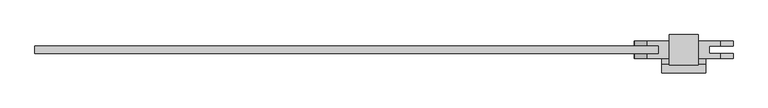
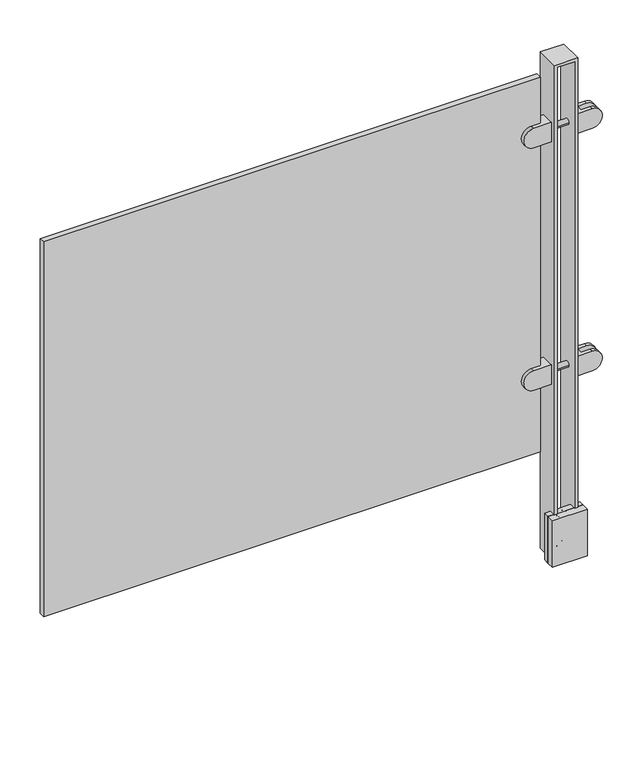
"""IFC4 building model written with IfcOpenShell, lengths in millimetres: proxy geometry, LIVERS_ICN - Glass Panel : LIVERS_ICN - Glass Panel."""

from ifc_helpers import new_model, si_unit, point, frame, origin, place, context, project, spatial, polyline, circle_curve, ellipse_curve, trimmed, outline, extrude, faceted_brep, source, transform, mapped, element, save
from ifc_brep_helpers import plane_surface, cylinder_surface, revolved_surface, advanced_brep


def building_element_proxy_7817a10f(model_context):
    return source(origin(), model_context, "Body", "SolidModel", [
        advanced_brep(
        [(1193.8, 55.5624457, 313.5369168), (1193.8, 25.3999457, 313.5369168), (1193.8, 25.3999457, 269.0869168), (1193.8, 55.5624457, 269.0869168), (1155.598906, 55.5624457, 269.0869168), (1155.598906, 55.5624457, 313.5369168), (1155.598906, 25.3999457, 269.0869168), (1155.598906, 34.1311957, 269.0869168), (1174.9280808, 34.1311957, 269.0869168), (1174.9280808, 46.8311957, 269.0869168), (1155.598906, 46.8311957, 269.0869168), (1155.598906, 25.3999457, 313.5369168), (1155.598906, 46.8311957, 313.5369168), (1174.9280808, 46.8311957, 313.5369168), (1174.9280808, 34.1311957, 313.5369168), (1155.598906, 34.1311957, 313.5369168)],
        [
            (0, 1),
            (1, 2),
            (2, 3),
            (3, 0),
            (3, 4),
            (4, 5, circle_curve(frame((1155.598906, 55.5624457, 291.3119168), z_axis=(0.0, 1.0, 0.0), x_axis=(0.0, 0.0, -1.0)), 22.225)),
            (5, 0),
            (2, 6),
            (6, 7),
            (7, 8),
            (8, 9),
            (9, 10),
            (10, 4),
            (1, 11),
            (11, 6, circle_curve(frame((1155.598906, 25.3999457, 291.3119168), z_axis=(0.0, -1.0, 0.0), x_axis=(0.0, 0.0, -1.0)), 22.225)),
            (5, 12),
            (12, 13),
            (13, 14),
            (14, 15),
            (15, 11),
            (13, 9),
            (8, 14),
            (12, 10, circle_curve(frame((1155.598906, 46.8311957, 291.3119168), z_axis=(0.0, -1.0, 0.0), x_axis=(0.0, 0.0, -1.0)), 22.225)),
            (7, 15, circle_curve(frame((1155.598906, 34.1311957, 291.3119168), z_axis=(0.0, 1.0, 0.0), x_axis=(0.0, 0.0, -1.0)), 22.225)),
        ],
        [
            plane_surface(frame((1193.8, 55.5624457, 269.0869168), z_axis=(1.0, 0.0, 0.0), x_axis=(0.0, 0.0, 1.0))),
            plane_surface(frame((1133.2969192, 55.5624457, 313.5369168), z_axis=(0.0, 1.0, 0.0), x_axis=(1.0, 0.0, 0.0))),
            plane_surface(frame((1133.2969192, 55.5624457, 269.0869168), z_axis=(0.0, 0.0, -1.0), x_axis=(1.0, 0.0, 0.0))),
            plane_surface(frame((1133.2969192, 25.3999457, 269.0869168), z_axis=(0.0, -1.0, 0.0), x_axis=(1.0, 0.0, 0.0))),
            plane_surface(frame((1133.2969192, 25.3999457, 313.5369168), z_axis=(0.0, 0.0, 1.0), x_axis=(1.0, 0.0, 0.0))),
            plane_surface(frame((1174.9280808, 46.8311957, 269.0869168), z_axis=(-1.0, 0.0, 0.0), x_axis=(0.0, 0.0, 1.0))),
            plane_surface(frame((1133.2969192, 46.8311957, 313.5369168), z_axis=(0.0, -1.0, 0.0), x_axis=(1.0, 0.0, 0.0))),
            plane_surface(frame((1133.2969192, 34.1311957, 269.0869168), z_axis=(0.0, 1.0, 0.0), x_axis=(1.0, 0.0, 0.0))),
            cylinder_surface(frame((1155.598906, 55.5624457, 291.3119168), z_axis=(0.0, 1.0, 0.0), x_axis=(0.0, 0.0, -1.0)), 22.225),
        ],
        [
            (0, [[1, 2, 3, 4]]),
            (1, [[-4, 5, 6, 7]]),
            (2, [[-3, 8, 9, 10, 11, 12, 13, -5]]),
            (3, [[-2, 14, 15, -8]]),
            (4, [[-1, -7, 16, 17, 18, 19, 20, -14]]),
            (5, [[21, -11, 22, -18]]),
            (6, [[-21, -17, 23, -12]]),
            (7, [[-22, -10, 24, -19]]),
            (8, [[-6, -13, -23, -16]]),
            (8, [[-9, -15, -20, -24]]),
        ],
    ),
        advanced_brep(
        [(1244.6, 55.5624457, 313.5369168), (1244.6, 55.5624457, 269.0869168), (1244.6, 25.3999457, 269.0869168), (1244.6, 25.3999457, 313.5369168), (1282.801094, 55.5624457, 313.5369168), (1282.801094, 55.5624457, 269.0869168), (1282.801094, 46.8311957, 269.0869168), (1263.4719192, 46.8311957, 269.0869168), (1263.4719192, 34.1311957, 269.0869168), (1282.801094, 34.1311957, 269.0869168), (1282.801094, 25.3999457, 269.0869168), (1282.801094, 25.3999457, 313.5369168), (1282.801094, 34.1311957, 313.5369168), (1263.4719192, 34.1311957, 313.5369168), (1263.4719192, 46.8311957, 313.5369168), (1282.801094, 46.8311957, 313.5369168)],
        [
            (0, 1),
            (1, 2),
            (2, 3),
            (3, 0),
            (0, 4),
            (4, 5, circle_curve(frame((1282.801094, 55.5624457, 291.3119168), z_axis=(0.0, 1.0, 0.0), x_axis=(0.0, 0.0, -1.0)), 22.225)),
            (5, 1),
            (5, 6),
            (6, 7),
            (7, 8),
            (8, 9),
            (9, 10),
            (10, 2),
            (10, 11, circle_curve(frame((1282.801094, 25.3999457, 291.3119168), z_axis=(0.0, -1.0, 0.0), x_axis=(0.0, 0.0, -1.0)), 22.225)),
            (11, 3),
            (11, 12),
            (12, 13),
            (13, 14),
            (14, 15),
            (15, 4),
            (13, 8),
            (7, 14),
            (6, 15, circle_curve(frame((1282.801094, 46.8311957, 291.3119168), z_axis=(0.0, -1.0, 0.0), x_axis=(0.0, 0.0, -1.0)), 22.225)),
            (12, 9, circle_curve(frame((1282.801094, 34.1311957, 291.3119168), z_axis=(0.0, 1.0, 0.0), x_axis=(0.0, 0.0, -1.0)), 22.225)),
        ],
        [
            plane_surface(frame((1244.6, 55.5624457, 269.0869168), z_axis=(-1.0, 0.0, 0.0), x_axis=(0.0, 0.0, 1.0))),
            plane_surface(frame((1305.1030808, 55.5624457, 313.5369168), z_axis=(0.0, 1.0, 0.0), x_axis=(-1.0, 0.0, 0.0))),
            plane_surface(frame((1305.1030808, 55.5624457, 269.0869168), z_axis=(0.0, 0.0, -1.0), x_axis=(-1.0, 0.0, 0.0))),
            plane_surface(frame((1305.1030808, 25.3999457, 269.0869168), z_axis=(0.0, -1.0, 0.0), x_axis=(-1.0, 0.0, 0.0))),
            plane_surface(frame((1305.1030808, 25.3999457, 313.5369168), z_axis=(0.0, 0.0, 1.0), x_axis=(-1.0, 0.0, 0.0))),
            plane_surface(frame((1263.4719192, 46.8311957, 269.0869168), z_axis=(1.0, 0.0, 0.0), x_axis=(0.0, 0.0, 1.0))),
            plane_surface(frame((1305.1030808, 46.8311957, 313.5369168), z_axis=(0.0, -1.0, 0.0), x_axis=(-1.0, 0.0, 0.0))),
            plane_surface(frame((1305.1030808, 34.1311957, 269.0869168), z_axis=(0.0, 1.0, 0.0), x_axis=(-1.0, 0.0, 0.0))),
            cylinder_surface(frame((1282.801094, 55.5624457, 291.3119168), z_axis=(0.0, 1.0, 0.0), x_axis=(0.0, 0.0, -1.0)), 22.225),
        ],
        [
            (0, [[1, 2, 3, 4]]),
            (1, [[5, 6, 7, -1]]),
            (2, [[-7, 8, 9, 10, 11, 12, 13, -2]]),
            (3, [[-13, 14, 15, -3]]),
            (4, [[-15, 16, 17, 18, 19, 20, -5, -4]]),
            (5, [[-18, 21, -10, 22]]),
            (6, [[-9, 23, -19, -22]]),
            (7, [[-17, 24, -11, -21]]),
            (8, [[-20, -23, -8, -6]]),
            (8, [[-24, -16, -14, -12]]),
        ],
    ),
        advanced_brep(
        [(1193.8, 55.5624457, 872.3369168), (1193.8, 25.3999457, 872.3369168), (1193.8, 25.3999457, 827.8869168), (1193.8, 55.5624457, 827.8869168), (1155.598906, 55.5624457, 827.8869168), (1155.598906, 55.5624457, 872.3369168), (1155.598906, 25.3999457, 827.8869168), (1155.598906, 34.1311957, 827.8869168), (1174.9280808, 34.1311957, 827.8869168), (1174.9280808, 46.8311957, 827.8869168), (1155.598906, 46.8311957, 827.8869168), (1155.598906, 25.3999457, 872.3369168), (1155.598906, 46.8311957, 872.3369168), (1174.9280808, 46.8311957, 872.3369168), (1174.9280808, 34.1311957, 872.3369168), (1155.598906, 34.1311957, 872.3369168)],
        [
            (0, 1),
            (1, 2),
            (2, 3),
            (3, 0),
            (3, 4),
            (4, 5, circle_curve(frame((1155.598906, 55.5624457, 850.1119168), z_axis=(0.0, 1.0, 0.0), x_axis=(0.0, 0.0, -1.0)), 22.225)),
            (5, 0),
            (2, 6),
            (6, 7),
            (7, 8),
            (8, 9),
            (9, 10),
            (10, 4),
            (1, 11),
            (11, 6, circle_curve(frame((1155.598906, 25.3999457, 850.1119168), z_axis=(0.0, -1.0, 0.0), x_axis=(0.0, 0.0, -1.0)), 22.225)),
            (5, 12),
            (12, 13),
            (13, 14),
            (14, 15),
            (15, 11),
            (13, 9),
            (8, 14),
            (12, 10, circle_curve(frame((1155.598906, 46.8311957, 850.1119168), z_axis=(0.0, -1.0, 0.0), x_axis=(0.0, 0.0, -1.0)), 22.225)),
            (7, 15, circle_curve(frame((1155.598906, 34.1311957, 850.1119168), z_axis=(0.0, 1.0, 0.0), x_axis=(0.0, 0.0, -1.0)), 22.225)),
        ],
        [
            plane_surface(frame((1193.8, 55.5624457, 827.8869168), z_axis=(1.0, 0.0, 0.0), x_axis=(0.0, 0.0, 1.0))),
            plane_surface(frame((1133.2969192, 55.5624457, 872.3369168), z_axis=(0.0, 1.0, 0.0), x_axis=(1.0, 0.0, 0.0))),
            plane_surface(frame((1133.2969192, 55.5624457, 827.8869168), z_axis=(0.0, 0.0, -1.0), x_axis=(1.0, 0.0, 0.0))),
            plane_surface(frame((1133.2969192, 25.3999457, 827.8869168), z_axis=(0.0, -1.0, 0.0), x_axis=(1.0, 0.0, 0.0))),
            plane_surface(frame((1133.2969192, 25.3999457, 872.3369168), z_axis=(0.0, 0.0, 1.0), x_axis=(1.0, 0.0, 0.0))),
            plane_surface(frame((1174.9280808, 46.8311957, 827.8869168), z_axis=(-1.0, 0.0, 0.0), x_axis=(0.0, 0.0, 1.0))),
            plane_surface(frame((1133.2969192, 46.8311957, 872.3369168), z_axis=(0.0, -1.0, 0.0), x_axis=(1.0, 0.0, 0.0))),
            plane_surface(frame((1133.2969192, 34.1311957, 827.8869168), z_axis=(0.0, 1.0, 0.0), x_axis=(1.0, 0.0, 0.0))),
            cylinder_surface(frame((1155.598906, 55.5624457, 850.1119168), z_axis=(0.0, 1.0, 0.0), x_axis=(0.0, 0.0, -1.0)), 22.225),
        ],
        [
            (0, [[1, 2, 3, 4]]),
            (1, [[-4, 5, 6, 7]]),
            (2, [[-3, 8, 9, 10, 11, 12, 13, -5]]),
            (3, [[-2, 14, 15, -8]]),
            (4, [[-1, -7, 16, 17, 18, 19, 20, -14]]),
            (5, [[21, -11, 22, -18]]),
            (6, [[-21, -17, 23, -12]]),
            (7, [[-22, -10, 24, -19]]),
            (8, [[-6, -13, -23, -16]]),
            (8, [[-9, -15, -20, -24]]),
        ],
    ),
        advanced_brep(
        [(1244.6, 55.5624457, 872.3369168), (1244.6, 55.5624457, 827.8869168), (1244.6, 25.3999457, 827.8869168), (1244.6, 25.3999457, 872.3369168), (1282.801094, 55.5624457, 872.3369168), (1282.801094, 55.5624457, 827.8869168), (1282.801094, 46.8311957, 827.8869168), (1263.4719192, 46.8311957, 827.8869168), (1263.4719192, 34.1311957, 827.8869168), (1282.801094, 34.1311957, 827.8869168), (1282.801094, 25.3999457, 827.8869168), (1282.801094, 25.3999457, 872.3369168), (1282.801094, 34.1311957, 872.3369168), (1263.4719192, 34.1311957, 872.3369168), (1263.4719192, 46.8311957, 872.3369168), (1282.801094, 46.8311957, 872.3369168)],
        [
            (0, 1),
            (1, 2),
            (2, 3),
            (3, 0),
            (0, 4),
            (4, 5, circle_curve(frame((1282.801094, 55.5624457, 850.1119168), z_axis=(0.0, 1.0, 0.0), x_axis=(0.0, 0.0, -1.0)), 22.225)),
            (5, 1),
            (5, 6),
            (6, 7),
            (7, 8),
            (8, 9),
            (9, 10),
            (10, 2),
            (10, 11, circle_curve(frame((1282.801094, 25.3999457, 850.1119168), z_axis=(0.0, -1.0, 0.0), x_axis=(0.0, 0.0, -1.0)), 22.225)),
            (11, 3),
            (11, 12),
            (12, 13),
            (13, 14),
            (14, 15),
            (15, 4),
            (13, 8),
            (7, 14),
            (6, 15, circle_curve(frame((1282.801094, 46.8311957, 850.1119168), z_axis=(0.0, -1.0, 0.0), x_axis=(0.0, 0.0, -1.0)), 22.225)),
            (12, 9, circle_curve(frame((1282.801094, 34.1311957, 850.1119168), z_axis=(0.0, 1.0, 0.0), x_axis=(0.0, 0.0, -1.0)), 22.225)),
        ],
        [
            plane_surface(frame((1244.6, 55.5624457, 827.8869168), z_axis=(-1.0, 0.0, 0.0), x_axis=(0.0, 0.0, 1.0))),
            plane_surface(frame((1305.1030808, 55.5624457, 872.3369168), z_axis=(0.0, 1.0, 0.0), x_axis=(-1.0, 0.0, 0.0))),
            plane_surface(frame((1305.1030808, 55.5624457, 827.8869168), z_axis=(0.0, 0.0, -1.0), x_axis=(-1.0, 0.0, 0.0))),
            plane_surface(frame((1305.1030808, 25.3999457, 827.8869168), z_axis=(0.0, -1.0, 0.0), x_axis=(-1.0, 0.0, 0.0))),
            plane_surface(frame((1305.1030808, 25.3999457, 872.3369168), z_axis=(0.0, 0.0, 1.0), x_axis=(-1.0, 0.0, 0.0))),
            plane_surface(frame((1263.4719192, 46.8311957, 827.8869168), z_axis=(1.0, 0.0, 0.0), x_axis=(0.0, 0.0, 1.0))),
            plane_surface(frame((1305.1030808, 46.8311957, 872.3369168), z_axis=(0.0, -1.0, 0.0), x_axis=(-1.0, 0.0, 0.0))),
            plane_surface(frame((1305.1030808, 34.1311957, 827.8869168), z_axis=(0.0, 1.0, 0.0), x_axis=(-1.0, 0.0, 0.0))),
            cylinder_surface(frame((1282.801094, 55.5624457, 850.1119168), z_axis=(0.0, 1.0, 0.0), x_axis=(0.0, 0.0, -1.0)), 22.225),
        ],
        [
            (0, [[1, 2, 3, 4]]),
            (1, [[5, 6, 7, -1]]),
            (2, [[-7, 8, 9, 10, 11, 12, 13, -2]]),
            (3, [[-13, 14, 15, -3]]),
            (4, [[-15, 16, 17, 18, 19, 20, -5, -4]]),
            (5, [[-18, 21, -10, 22]]),
            (6, [[-9, 23, -19, -22]]),
            (7, [[-17, 24, -11, -21]]),
            (8, [[-20, -23, -8, -6]]),
            (8, [[-24, -16, -14, -12]]),
        ],
    ),
        advanced_brep(
        [(1219.2, 28.575, -125.3541166), (1219.2, 29.7562407, -125.3541166), (1219.2, 29.7562407, -103.1291055), (1219.2, 28.575, -103.1291055), (1219.2, 28.575, -114.2416111), (1219.2, 32.325, -119.8541166), (1219.2, 30.8816229, -114.2416111), (1219.2, 32.325, -108.6291055), (1219.2, 34.8740117, -119.8541166), (1219.2, 34.8740117, -108.6291055), (1219.2, 33.8500285, -122.802123), (1219.2, 33.8500285, -105.6810991), (1219.2, 31.8562692, -124.5603989), (1219.2, 31.8562692, -103.9228232)],
        [
            (0, 1),
            (1, 2, circle_curve(frame((1219.2, 29.7562407, -114.2416111), z_axis=(0.0, -1.0, 0.0), x_axis=(0.0, 0.0, 1.0)), 11.1125056)),
            (2, 3),
            (3, 0, circle_curve(frame((1219.2, 28.575, -114.2416111), z_axis=(0.0, 1.0, 0.0), x_axis=(0.0, 0.0, 1.0)), 11.1125056)),
            (2, 1, circle_curve(frame((1219.2, 29.7562407, -114.2416111), z_axis=(0.0, -1.0, 0.0), x_axis=(0.0, 0.0, 1.0)), 11.1125056)),
            (0, 3, circle_curve(frame((1219.2, 28.575, -114.2416111), z_axis=(0.0, 1.0, 0.0), x_axis=(0.0, 0.0, 1.0)), 11.1125056)),
            (4, 0),
            (3, 4),
            (5, 6),
            (6, 7),
            (7, 5, circle_curve(frame((1219.2, 32.325, -114.2416111), z_axis=(0.0, 1.0, 0.0), x_axis=(0.0, 0.0, 1.0)), 5.6125056)),
            (5, 7, circle_curve(frame((1219.2, 32.325, -114.2416111), z_axis=(0.0, 1.0, 0.0), x_axis=(0.0, 0.0, 1.0)), 5.6125056)),
            (8, 5),
            (7, 9),
            (9, 8, circle_curve(frame((1219.2, 34.8740117, -114.2416111), z_axis=(0.0, 1.0, 0.0), x_axis=(0.0, 0.0, 1.0)), 5.6125056)),
            (8, 9, circle_curve(frame((1219.2, 34.8740117, -114.2416111), z_axis=(0.0, 1.0, 0.0), x_axis=(0.0, 0.0, 1.0)), 5.6125056)),
            (10, 8, circle_curve(frame((1219.2, 31.75, -120.4208407), z_axis=(1.0, 0.0, 0.0), x_axis=(0.0, -1.0, 0.0)), 3.175)),
            (9, 11, circle_curve(frame((1219.2, 31.75, -108.0623814), z_axis=(1.0, 0.0, 0.0), x_axis=(0.0, -1.0, 0.0)), 3.175)),
            (11, 10, circle_curve(frame((1219.2, 33.8500285, -114.2416111), z_axis=(0.0, 1.0, 0.0), x_axis=(0.0, 0.0, 1.0)), 8.560512)),
            (10, 11, circle_curve(frame((1219.2, 33.8500285, -114.2416111), z_axis=(0.0, 1.0, 0.0), x_axis=(0.0, 0.0, 1.0)), 8.560512)),
            (12, 10),
            (11, 13),
            (13, 12, circle_curve(frame((1219.2, 31.8562692, -114.2416111), z_axis=(0.0, 1.0, 0.0), x_axis=(0.0, 0.0, 1.0)), 10.3187879)),
            (12, 13, circle_curve(frame((1219.2, 31.8562692, -114.2416111), z_axis=(0.0, 1.0, 0.0), x_axis=(0.0, 0.0, 1.0)), 10.3187879)),
            (1, 12, circle_curve(frame((1219.2, 29.7562407, -122.1791166), z_axis=(1.0, 0.0, 0.0), x_axis=(0.0, -1.0, 0.0)), 3.175)),
            (13, 2, circle_curve(frame((1219.2, 29.7562407, -106.3041055), z_axis=(1.0, 0.0, 0.0), x_axis=(0.0, -1.0, 0.0)), 3.175)),
        ],
        [
            cylinder_surface(frame((1219.2, 28.575, -114.2416111), z_axis=(0.0, -1.0, 0.0), x_axis=(0.0, 0.0, 1.0)), 11.1125056),
            plane_surface(frame((1219.2, 28.575, -114.2416111), z_axis=(0.0, -1.0, 0.0), x_axis=(0.0, 0.0, 1.0))),
            revolved_surface(polyline([(1219.2, 30.8816229, -114.2416111), (1219.2, 32.325, -108.6291055)]), (1219.2, 28.575, -114.2416111), (0.0, -1.0, 0.0)),
            revolved_surface(polyline([(1219.2, 32.325, -108.6291055), (1219.2, 34.8740117, -108.6291055)]), (1219.2, 28.575, -114.2416111), (0.0, -1.0, 0.0)),
            revolved_surface(trimmed(ellipse_curve(frame((1219.2, 31.75, -108.0623814), z_axis=(1.0, 0.0, 0.0), x_axis=(0.0, -1.0, 0.0)), 3.175, 3.175), [point((1219.2, 34.8740117, -108.6291055))], [point((1219.2, 33.8500285, -105.6810991))], True, "CARTESIAN"), (1219.2, 28.575, -114.2416111), (0.0, -1.0, 0.0)),
            revolved_surface(polyline([(1219.2, 33.8500285, -105.6810991), (1219.2, 31.8562692, -103.9228232)]), (1219.2, 28.575, -114.2416111), (0.0, -1.0, 0.0)),
            revolved_surface(trimmed(ellipse_curve(frame((1219.2, 29.7562407, -106.3041055), z_axis=(1.0, 0.0, 0.0), x_axis=(0.0, -1.0, 0.0)), 3.175, 3.175), [point((1219.2, 31.8562692, -103.9228232))], [point((1219.2, 29.7562407, -103.1291055))], True, "CARTESIAN"), (1219.2, 28.575, -114.2416111), (0.0, -1.0, 0.0)),
        ],
        [
            (0, [[1, 2, 3, 4]]),
            (0, [[-3, 5, -1, 6]]),
            (1, [[7, -4, 8]]),
            (1, [[-8, -6, -7]]),
            (2, [[9, 10, 11]]),
            (2, [[-10, -9, 12]]),
            (3, [[13, -11, 14, 15]]),
            (3, [[-14, -12, -13, 16]]),
            (4, [[17, -15, 18, 19]]),
            (4, [[-18, -16, -17, 20]]),
            (5, [[21, -19, 22, 23]]),
            (5, [[-22, -20, -21, 24]]),
            (6, [[25, -23, 26, -2]]),
            (6, [[-26, -24, -25, -5]]),
        ],
    ),
        advanced_brep(
        [(1219.2, 28.575, -55.5041166), (1219.2, 29.7562407, -55.5041166), (1219.2, 29.7562407, -33.2791055), (1219.2, 28.575, -33.2791055), (1219.2, 28.575, -44.3916111), (1219.2, 33.8500285, -52.952123), (1219.2, 34.8740117, -50.0041166), (1219.2, 34.8740117, -38.7791055), (1219.2, 33.8500285, -35.8310991), (1219.2, 31.8562692, -54.7103989), (1219.2, 31.8562692, -34.0728232), (1219.2, 32.325, -50.0041166), (1219.2, 30.8816229, -44.3916111), (1219.2, 32.325, -38.7791055)],
        [
            (0, 1),
            (1, 2, circle_curve(frame((1219.2, 29.7562407, -44.3916111), z_axis=(0.0, -1.0, 0.0), x_axis=(0.0, 0.0, 1.0)), 11.1125056)),
            (2, 3),
            (3, 0, circle_curve(frame((1219.2, 28.575, -44.3916111), z_axis=(0.0, 1.0, 0.0), x_axis=(0.0, 0.0, 1.0)), 11.1125056)),
            (2, 1, circle_curve(frame((1219.2, 29.7562407, -44.3916111), z_axis=(0.0, -1.0, 0.0), x_axis=(0.0, 0.0, 1.0)), 11.1125056)),
            (0, 3, circle_curve(frame((1219.2, 28.575, -44.3916111), z_axis=(0.0, 1.0, 0.0), x_axis=(0.0, 0.0, 1.0)), 11.1125056)),
            (4, 0),
            (3, 4),
            (5, 6, circle_curve(frame((1219.2, 31.75, -50.5708407), z_axis=(1.0, 0.0, 0.0), x_axis=(0.0, -1.0, 0.0)), 3.175)),
            (6, 7, circle_curve(frame((1219.2, 34.8740117, -44.3916111), z_axis=(0.0, -1.0, 0.0), x_axis=(0.0, 0.0, 1.0)), 5.6125056)),
            (7, 8, circle_curve(frame((1219.2, 31.75, -38.2123814), z_axis=(1.0, 0.0, 0.0), x_axis=(0.0, -1.0, 0.0)), 3.175)),
            (8, 5, circle_curve(frame((1219.2, 33.8500285, -44.3916111), z_axis=(0.0, 1.0, 0.0), x_axis=(0.0, 0.0, 1.0)), 8.560512)),
            (7, 6, circle_curve(frame((1219.2, 34.8740117, -44.3916111), z_axis=(0.0, -1.0, 0.0), x_axis=(0.0, 0.0, 1.0)), 5.6125056)),
            (5, 8, circle_curve(frame((1219.2, 33.8500285, -44.3916111), z_axis=(0.0, 1.0, 0.0), x_axis=(0.0, 0.0, 1.0)), 8.560512)),
            (9, 5),
            (8, 10),
            (10, 9, circle_curve(frame((1219.2, 31.8562692, -44.3916111), z_axis=(0.0, 1.0, 0.0), x_axis=(0.0, 0.0, 1.0)), 10.3187879)),
            (9, 10, circle_curve(frame((1219.2, 31.8562692, -44.3916111), z_axis=(0.0, 1.0, 0.0), x_axis=(0.0, 0.0, 1.0)), 10.3187879)),
            (1, 9, circle_curve(frame((1219.2, 29.7562407, -52.3291166), z_axis=(1.0, 0.0, 0.0), x_axis=(0.0, -1.0, 0.0)), 3.175)),
            (10, 2, circle_curve(frame((1219.2, 29.7562407, -36.4541055), z_axis=(1.0, 0.0, 0.0), x_axis=(0.0, -1.0, 0.0)), 3.175)),
            (11, 12),
            (12, 13),
            (13, 11, circle_curve(frame((1219.2, 32.325, -44.3916111), z_axis=(0.0, 1.0, 0.0), x_axis=(0.0, 0.0, 1.0)), 5.6125056)),
            (11, 13, circle_curve(frame((1219.2, 32.325, -44.3916111), z_axis=(0.0, 1.0, 0.0), x_axis=(0.0, 0.0, 1.0)), 5.6125056)),
            (6, 11),
            (13, 7),
        ],
        [
            cylinder_surface(frame((1219.2, 28.575, -44.3916111), z_axis=(0.0, -1.0, 0.0), x_axis=(0.0, 0.0, 1.0)), 11.1125056),
            plane_surface(frame((1219.2, 28.575, -44.3916111), z_axis=(0.0, -1.0, 0.0), x_axis=(0.0, 0.0, 1.0))),
            revolved_surface(trimmed(ellipse_curve(frame((1219.2, 31.75, -38.2123814), z_axis=(1.0, 0.0, 0.0), x_axis=(0.0, -1.0, 0.0)), 3.175, 3.175), [point((1219.2, 34.8740117, -38.7791055))], [point((1219.2, 33.8500285, -35.8310991))], True, "CARTESIAN"), (1219.2, 28.575, -44.3916111), (0.0, -1.0, 0.0)),
            revolved_surface(polyline([(1219.2, 33.8500285, -35.8310991), (1219.2, 31.8562692, -34.0728232)]), (1219.2, 28.575, -44.3916111), (0.0, -1.0, 0.0)),
            revolved_surface(trimmed(ellipse_curve(frame((1219.2, 29.7562407, -36.4541055), z_axis=(1.0, 0.0, 0.0), x_axis=(0.0, -1.0, 0.0)), 3.175, 3.175), [point((1219.2, 31.8562692, -34.0728232))], [point((1219.2, 29.7562407, -33.2791055))], True, "CARTESIAN"), (1219.2, 28.575, -44.3916111), (0.0, -1.0, 0.0)),
            revolved_surface(polyline([(1219.2, 30.8816229, -44.3916111), (1219.2, 32.325, -38.7791055)]), (1219.2, 28.575, -44.3916111), (0.0, -1.0, 0.0)),
            revolved_surface(polyline([(1219.2, 32.325, -38.7791055), (1219.2, 34.8740117, -38.7791055)]), (1219.2, 28.575, -44.3916111), (0.0, -1.0, 0.0)),
        ],
        [
            (0, [[1, 2, 3, 4]]),
            (0, [[-3, 5, -1, 6]]),
            (1, [[7, -4, 8]]),
            (1, [[-8, -6, -7]]),
            (2, [[9, 10, 11, 12]]),
            (2, [[-11, 13, -9, 14]]),
            (3, [[15, -12, 16, 17]]),
            (3, [[-16, -14, -15, 18]]),
            (4, [[19, -17, 20, -2]]),
            (4, [[-20, -18, -19, -5]]),
            (5, [[21, 22, 23]]),
            (5, [[-22, -21, 24]]),
            (6, [[25, -23, 26, -10]]),
            (6, [[-26, -24, -25, -13]]),
        ],
    ),
        faceted_brep([(1244.6, 14.2874305, 1010.2680522), (1244.6, 14.2874305, -133.2916111), (1244.6, 15.875, -133.2916111), (1244.6, 15.875, -25.3416111), (1244.6, 28.575, -25.3416111), (1244.6, 28.575, -133.2916111), (1244.6, 66.6749609, -133.2916111), (1244.6, 66.6749609, 1010.2680522), (1238.25, 66.6749609, -133.2916111), (1238.25, 28.575, -133.2916111), (1238.25, 28.575, -25.3416111), (1238.25, 15.875, -25.3416111), (1238.25, 15.875, -133.2916111), (1238.25, 14.2874305, -133.2916111), (1238.25, 14.2874305, 1003.9180522), (1238.25, 66.6749609, 1003.9180522), (1181.1, 28.575, -133.2916111), (1193.8, 28.575, -133.2916111), (1193.8, 66.6749609, -133.2916111), (1200.15, 66.6749609, -133.2916111), (1200.15, 28.575, -133.2916111), (1257.3, 28.575, -133.2916111), (1257.3, 15.875, -133.2916111), (1200.15, 15.875, -133.2916111), (1200.15, 14.2874305, -133.2916111), (1193.8, 14.2874305, -133.2916111), (1193.8, 15.875, -133.2916111), (1181.1, 15.875, -133.2916111), (1193.8, 14.2874305, 1010.2680522), (1200.15, 14.2874305, 1003.9180522), (1193.8, 66.6749609, 1010.2680522), (1200.15, 66.6749609, 1003.9180522), (1200.15, 15.875, -25.3416111), (1200.15, 28.575, -25.3416111), (1193.8, 28.575, -25.3416111), (1193.8, 15.875, -25.3416111), (1257.3, 28.575, -25.3416111), (1181.1, 28.575, -25.3416111), (1181.1, 15.875, -25.3416111), (1257.3, 15.875, -25.3416111)], [[[0, 1, 2, 3, 4, 5, 6, 7]], [[8, 9, 10, 11, 12, 13, 14, 15]], [[16, 17, 18, 19, 20, 9, 8, 6, 5, 21, 22, 2, 1, 13, 12, 23, 24, 25, 26, 27]], [[1, 0, 28, 25, 24, 29, 14, 13]], [[7, 30, 28, 0]], [[8, 15, 31, 19, 18, 30, 7, 6]], [[24, 23, 32, 33, 20, 19, 31, 29]], [[14, 29, 31, 15]], [[30, 18, 17, 34, 35, 26, 25, 28]], [[20, 33, 10, 9]], [[21, 5, 4, 36]], [[37, 34, 17, 16]], [[12, 11, 32, 23]], [[27, 26, 35, 38]], [[39, 3, 2, 22]], [[36, 39, 22, 21]], [[33, 32, 11, 10]], [[36, 4, 3, 39]], [[38, 35, 34, 37]], [[16, 27, 38, 37]]]),
        extrude(outline(polyline([(1257.3, 15.875), (1257.3, 0.0), (1181.1, 0.0), (1181.1, 15.875), (1257.3, 15.875)])), frame((0.0, 0.0, -133.2916111), z_axis=(0.0, 0.0, 1.0), x_axis=(1.0, 0.0, 0.0)), (0.0, 0.0, 1.0), 107.95),
        advanced_brep(
        [(1200.15, 41.2749421, 291.3119224), (1200.15, 47.5989918, 291.3119224), (1200.15, 34.9508924, 291.3119224), (1238.2639862, 47.5989918, 291.3119224), (1238.2639862, 41.2749421, 291.3119224), (1238.2639862, 34.9508924, 291.3119224)],
        [
            (0, 1),
            (1, 2, circle_curve(frame((1200.15, 41.2749421, 291.3119224), z_axis=(-1.0, 0.0, 0.0), x_axis=(0.0, -1.0, 0.0)), 6.3240497)),
            (2, 0),
            (2, 1, circle_curve(frame((1200.15, 41.2749421, 291.3119224), z_axis=(-1.0, 0.0, 0.0), x_axis=(0.0, -1.0, 0.0)), 6.3240497)),
            (3, 4),
            (4, 5),
            (5, 3, circle_curve(frame((1238.2639862, 41.2749421, 291.3119224), z_axis=(1.0, 0.0, 0.0), x_axis=(0.0, -1.0, 0.0)), 6.3240497)),
            (3, 5, circle_curve(frame((1238.2639862, 41.2749421, 291.3119224), z_axis=(1.0, 0.0, 0.0), x_axis=(0.0, -1.0, 0.0)), 6.3240497)),
            (1, 3),
            (5, 2),
        ],
        [
            plane_surface(frame((1200.15, 41.2749421, 291.3119224), z_axis=(-1.0, 0.0, 0.0), x_axis=(0.0, -1.0, 0.0))),
            plane_surface(frame((1238.2639862, 41.2749421, 291.3119224), z_axis=(1.0, 0.0, 0.0), x_axis=(0.0, -1.0, 0.0))),
            cylinder_surface(frame((1200.15, 41.2749421, 291.3119224), z_axis=(-1.0, 0.0, 0.0), x_axis=(0.0, -1.0, 0.0)), 6.3240497),
        ],
        [
            (0, [[1, 2, 3]]),
            (0, [[-3, 4, -1]]),
            (1, [[5, 6, 7]]),
            (1, [[-6, -5, 8]]),
            (2, [[9, -7, 10, -2]]),
            (2, [[-10, -8, -9, -4]]),
        ],
    ),
        advanced_brep(
        [(1200.15, 41.2749421, 850.1119224), (1200.15, 47.5989918, 850.1119224), (1200.15, 34.9508924, 850.1119224), (1238.2639862, 47.5989918, 850.1119224), (1238.2639862, 41.2749421, 850.1119224), (1238.2639862, 34.9508924, 850.1119224)],
        [
            (0, 1),
            (1, 2, circle_curve(frame((1200.15, 41.2749421, 850.1119224), z_axis=(-1.0, 0.0, 0.0), x_axis=(0.0, -1.0, 0.0)), 6.3240497)),
            (2, 0),
            (2, 1, circle_curve(frame((1200.15, 41.2749421, 850.1119224), z_axis=(-1.0, 0.0, 0.0), x_axis=(0.0, -1.0, 0.0)), 6.3240497)),
            (3, 4),
            (4, 5),
            (5, 3, circle_curve(frame((1238.2639862, 41.2749421, 850.1119224), z_axis=(1.0, 0.0, 0.0), x_axis=(0.0, -1.0, 0.0)), 6.3240497)),
            (3, 5, circle_curve(frame((1238.2639862, 41.2749421, 850.1119224), z_axis=(1.0, 0.0, 0.0), x_axis=(0.0, -1.0, 0.0)), 6.3240497)),
            (1, 3),
            (5, 2),
        ],
        [
            plane_surface(frame((1200.15, 41.2749421, 850.1119224), z_axis=(-1.0, 0.0, 0.0), x_axis=(0.0, -1.0, 0.0))),
            plane_surface(frame((1238.2639862, 41.2749421, 850.1119224), z_axis=(1.0, 0.0, 0.0), x_axis=(0.0, -1.0, 0.0))),
            cylinder_surface(frame((1200.15, 41.2749421, 850.1119224), z_axis=(-1.0, 0.0, 0.0), x_axis=(0.0, -1.0, 0.0)), 6.3240497),
        ],
        [
            (0, [[1, 2, 3]]),
            (0, [[-3, 4, -1]]),
            (1, [[5, 6, 7]]),
            (1, [[-6, -5, 8]]),
            (2, [[9, -7, 10, -2]]),
            (2, [[-10, -8, -9, -4]]),
        ],
    ),
        extrude(outline(polyline([(1174.9280808, 34.1309994), (90.9506511, 34.1309994), (90.9506511, 46.8311957), (1174.9280808, 46.8311957), (1174.9280808, 34.1309994)])), frame((0.0, 0.0, 114.3), z_axis=(0.0, 0.0, 1.0), x_axis=(1.0, 0.0, 0.0)), (0.0, 0.0, 1.0), 863.6),
    ])


if __name__ == "__main__":
    model = new_model("IFC4")
    model_context = context("Model", 3, world=origin())
    ifc_project = project(units=[si_unit("LENGTHUNIT", "METRE", prefix="MILLI")], contexts=[model_context])
    site = spatial("IfcSite", under=ifc_project)
    building = spatial("IfcBuilding", under=site)
    placement = place(None, origin())
    building_element_proxy_shape = building_element_proxy_7817a10f(model_context)
    element("IfcBuildingElementProxy", 1, Name="LIVERS_ICN - Glass Panel : LIVERS_ICN - Glass Panel", ObjectType="LIVERS_ICN - Glass Panel : LIVERS_ICN - Glass Panel", at=placement, inside=building, context=model_context, shape_type="MappedRepresentation", body=[
        mapped(building_element_proxy_shape, transform((0.0, 0.0, 0.0), x_axis=(1.0, 0.0, 0.0), y_axis=(0.0, 1.0, 0.0), z_axis=(0.0, 0.0, 1.0))),
    ])
    save(model, "model.ifc")
